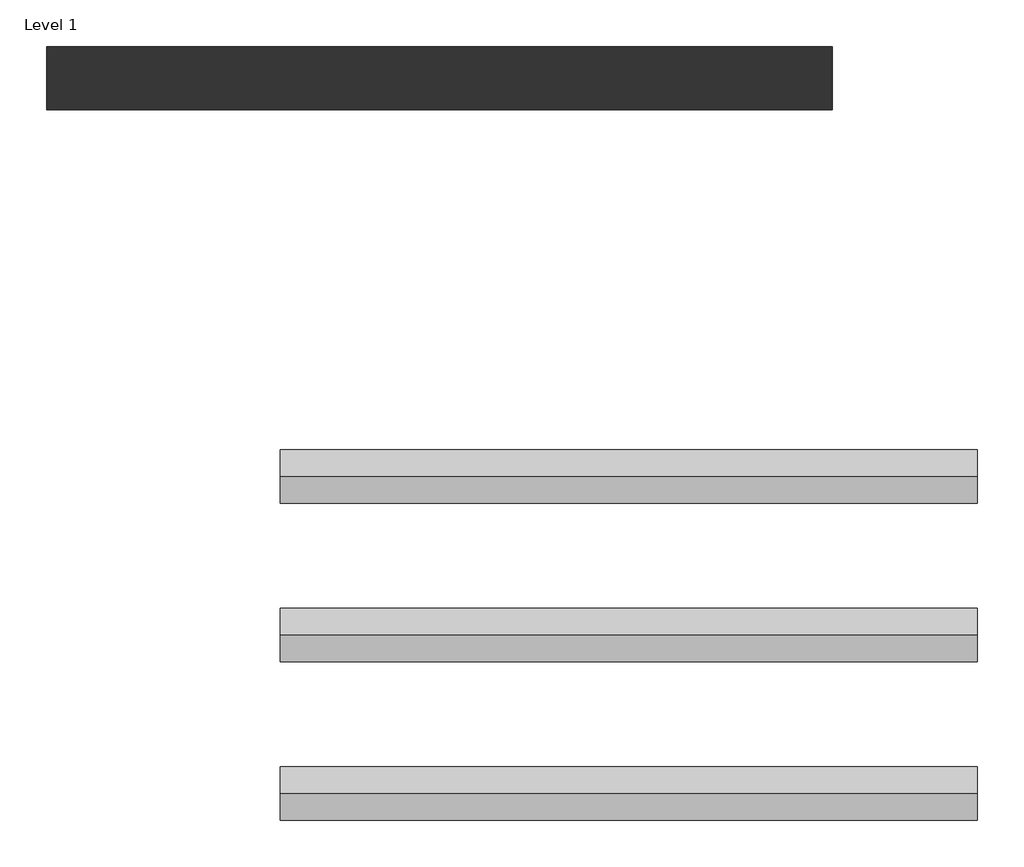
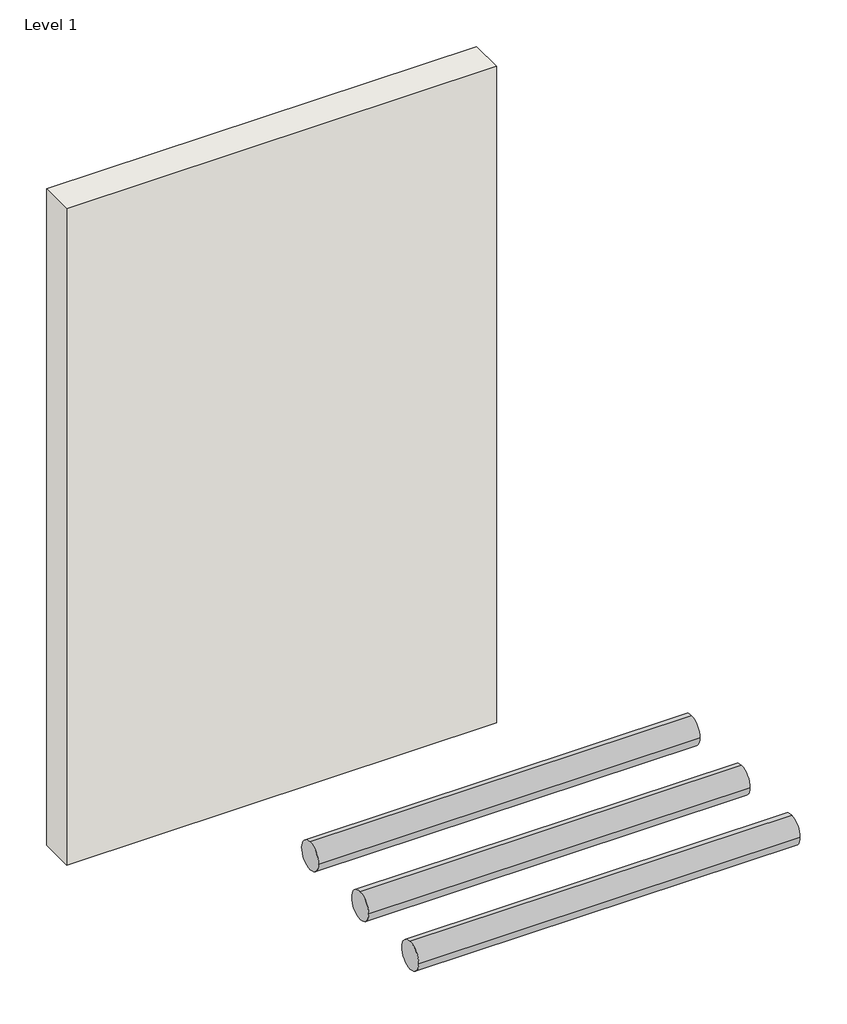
# One storey: 3 pipe segments, 1 wall.
"""IFC4 building model written with IfcOpenShell, lengths in millimetres."""

from ifc_helpers import new_model, si_unit, point, frame, frame_2d, origin, origin_with_axes, place, context, project, spatial, polyline, circle_curve, trimmed, segment, composite_curve, outline, extrude, element, save

model = new_model("IFC4")

# Units and contexts
model_context = context("Model", 3, world=origin())
ifc_project = project(units=[si_unit("LENGTHUNIT", "METRE", prefix="MILLI")], contexts=[model_context])

# Site, building, storey
site = spatial("IfcSite", under=ifc_project)
building = spatial("IfcBuilding", under=site)
storey = spatial("IfcBuildingStorey", under=building, Name="Level 1", Elevation=0.0)

# Pipe segments
placement = place(None, origin())
element("IfcPipeSegment", 1, ObjectType="Default", at=placement, inside=storey, context=model_context, shape_type="SweptSolid", body=[
    extrude(outline(composite_curve([segment(trimmed(circle_curve(frame_2d((1974.5712438, 500.0)), 84.1375), [point((1890.4337438, 500.0))], [point((1974.5712438, 584.1375))], False, "CARTESIAN"), True, "CONTINUOUS"), segment(trimmed(circle_curve(frame_2d((1974.5712438, 500.0)), 84.1375), [point((1974.5712438, 584.1375))], [point((2058.7087438, 500.0))], False, "CARTESIAN"), True, "CONTINUOUS"), segment(trimmed(circle_curve(frame_2d((1974.5712438, 500.0)), 84.1375), [point((2058.7087438, 500.0))], [point((1974.5712438, 415.8625))], False, "CARTESIAN"), True, "CONTINUOUS"), segment(trimmed(circle_curve(frame_2d((1974.5712438, 500.0)), 84.1375), [point((1974.5712438, 415.8625))], [point((1890.4337438, 500.0))], False, "CARTESIAN"), True, "CONTINUOUS")], self_intersect=False)), frame((2558.8697504, 0.0, 0.0), z_axis=(1.0, 0.0, 0.0), x_axis=(0.0, 1.0, 0.0)), (0.0, 0.0, 1.0), 2200.0),
])
element("IfcPipeSegment", 2, ObjectType="Default", at=placement, inside=storey, context=model_context, shape_type="SweptSolid", body=[
    extrude(outline(composite_curve([segment(trimmed(circle_curve(frame_2d((1474.5712438, 500.0)), 84.1375), [point((1390.4337438, 500.0))], [point((1474.5712438, 584.1375))], False, "CARTESIAN"), True, "CONTINUOUS"), segment(trimmed(circle_curve(frame_2d((1474.5712438, 500.0)), 84.1375), [point((1474.5712438, 584.1375))], [point((1558.7087438, 500.0))], False, "CARTESIAN"), True, "CONTINUOUS"), segment(trimmed(circle_curve(frame_2d((1474.5712438, 500.0)), 84.1375), [point((1558.7087438, 500.0))], [point((1474.5712438, 415.8625))], False, "CARTESIAN"), True, "CONTINUOUS"), segment(trimmed(circle_curve(frame_2d((1474.5712438, 500.0)), 84.1375), [point((1474.5712438, 415.8625))], [point((1390.4337438, 500.0))], False, "CARTESIAN"), True, "CONTINUOUS")], self_intersect=False)), frame((2558.8697504, 0.0, 0.0), z_axis=(1.0, 0.0, 0.0), x_axis=(0.0, 1.0, 0.0)), (0.0, 0.0, 1.0), 2200.0),
])
element("IfcPipeSegment", 3, ObjectType="Default", at=placement, inside=storey, context=model_context, shape_type="SweptSolid", body=[
    extrude(outline(composite_curve([segment(trimmed(circle_curve(frame_2d((974.5712438, 500.0)), 84.1375), [point((890.4337438, 500.0))], [point((974.5712438, 584.1375))], False, "CARTESIAN"), True, "CONTINUOUS"), segment(trimmed(circle_curve(frame_2d((974.5712438, 500.0)), 84.1375), [point((974.5712438, 584.1375))], [point((1058.7087438, 500.0))], False, "CARTESIAN"), True, "CONTINUOUS"), segment(trimmed(circle_curve(frame_2d((974.5712438, 500.0)), 84.1375), [point((1058.7087438, 500.0))], [point((974.5712438, 415.8625))], False, "CARTESIAN"), True, "CONTINUOUS"), segment(trimmed(circle_curve(frame_2d((974.5712438, 500.0)), 84.1375), [point((974.5712438, 415.8625))], [point((890.4337438, 500.0))], False, "CARTESIAN"), True, "CONTINUOUS")], self_intersect=False)), frame((2558.8697504, 0.0, 0.0), z_axis=(1.0, 0.0, 0.0), x_axis=(0.0, 1.0, 0.0)), (0.0, 0.0, 1.0), 2200.0),
])

# Wall
element("IfcWall", 4, ObjectType="Wall 1", at=placement, inside=storey, context=model_context, shape_type="SweptSolid", body=[
    extrude(outline(polyline([(4301.2589074, 3131.5914489), (1821.2589074, 3131.5914489), (1821.2589074, 3331.5914489), (4301.2589074, 3331.5914489), (4301.2589074, 3131.5914489)])), origin_with_axes(), (0.0, 0.0, 1.0), 4000.0),
])

save(model, "model.ifc")
